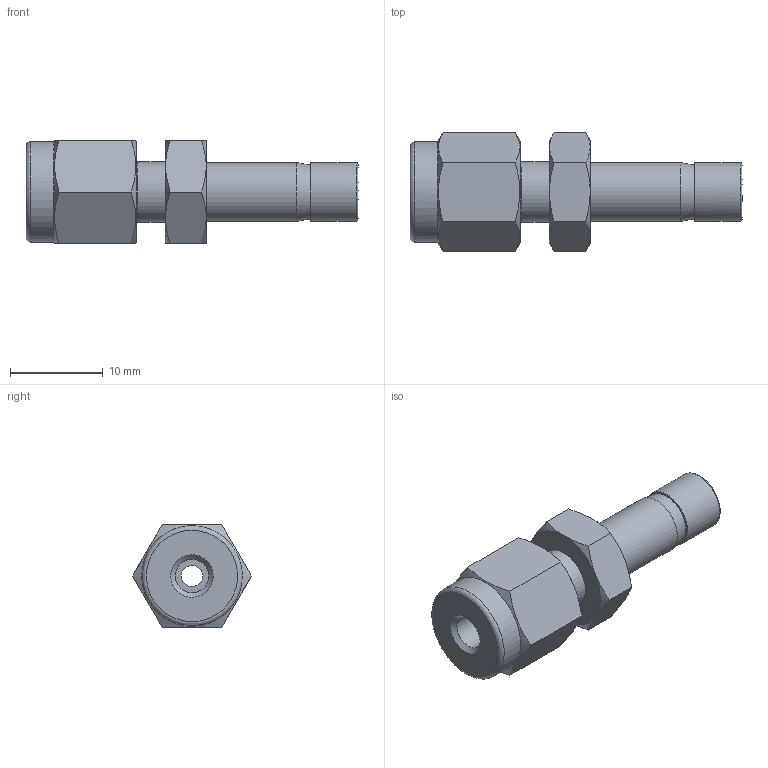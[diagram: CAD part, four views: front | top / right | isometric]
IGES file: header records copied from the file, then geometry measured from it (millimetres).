
Global section: file name: SR-2-4; native system: Autodesk Inventor 2016; preprocessor: unknown; author: DESIGNPC2; date: 20151111.153734; units: millimetre
Bounding box: 35.86 x 12.83 x 11.11 mm (x, y, z)
Volume: 1895.4 mm3; surface area: 1746 mm2
Topology: 1 solids, 1 shells, 41 faces, 108 edges, 74 vertices
Faces by surface type: bspline 41
